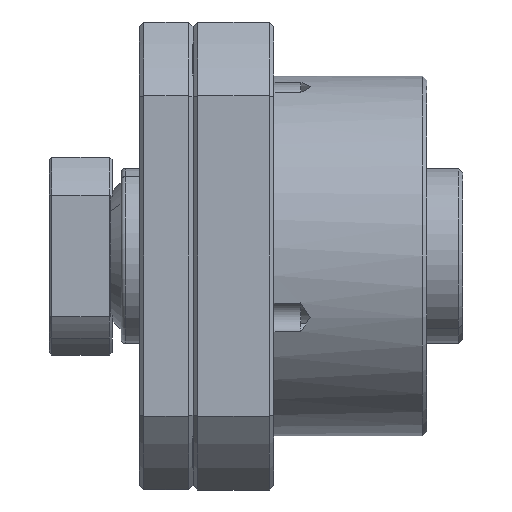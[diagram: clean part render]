
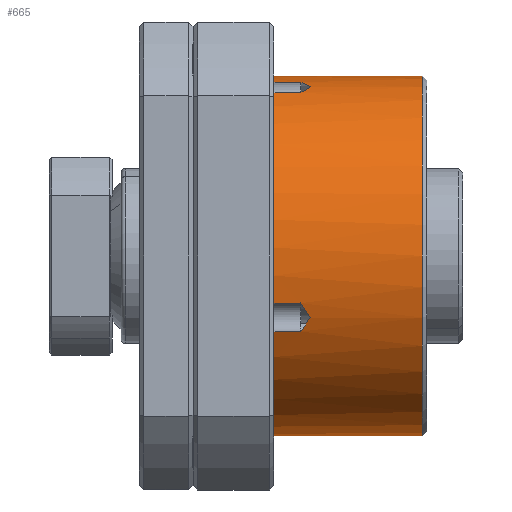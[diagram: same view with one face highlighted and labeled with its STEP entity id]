
A CAD part, front view. The second image highlights one B-rep face of the part: STEP entity #665.
In plain terms, the highlighted cylindrical face has radius 20 mm (diameter 40 mm), a partial arc.
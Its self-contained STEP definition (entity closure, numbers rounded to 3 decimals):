
#18 = VECTOR ( 'NONE', #7051, 1000. ) ;
#54 = VERTEX_POINT ( 'NONE', #859 ) ;
#195 = DIRECTION ( 'NONE',  ( 0., 0., 1. ) ) ;
#244 = CARTESIAN_POINT ( 'NONE',  ( 9., 0., 0. ) ) ;
#260 = CARTESIAN_POINT ( 'NONE',  ( 6., -19.3, -5.244 ) ) ;
#285 = LINE ( 'NONE', #5801, #3372 ) ;
#422 = EDGE_CURVE ( 'NONE', #6852, #6995, #6090, .T. ) ;
#429 = CIRCLE ( 'NONE', #4293, 20. ) ;
#468 = CARTESIAN_POINT ( 'NONE',  ( 12., -8.389, 18.156 ) ) ;
#553 = CARTESIAN_POINT ( 'NONE',  ( 12., -19.3, -5.244 ) ) ;
#665 = ADVANCED_FACE ( 'NONE', ( #6010 ), #3039, .T. ) ;
#678 = CARTESIAN_POINT ( 'NONE',  ( 12., -19.3, -5.244 ) ) ;
#716 = CARTESIAN_POINT ( 'NONE',  ( 12.335, -5.782, 19.154 ) ) ;
#741 = CARTESIAN_POINT ( 'NONE',  ( 13.006, -18.794, -6.84 ) ) ;
#789 = VERTEX_POINT ( 'NONE', #5570 ) ;
#859 = CARTESIAN_POINT ( 'NONE',  ( 25.5, 0., 20. ) ) ;
#946 = VERTEX_POINT ( 'NONE', #2613 ) ;
#986 = B_SPLINE_CURVE_WITH_KNOTS ( 'NONE', 3,
 ( #678, #2297, #2358, #6796 ),
 .UNSPECIFIED., .F., .F.,
 ( 4, 4 ),
 ( 0.002, 0.004 ),
 .UNSPECIFIED. ) ;
#995 = EDGE_CURVE ( 'NONE', #6656, #2235, #285, .T. ) ;
#1009 = CARTESIAN_POINT ( 'NONE',  ( 12.671, -7.365, 18.603 ) ) ;
#1016 = VERTEX_POINT ( 'NONE', #1941 ) ;
#1132 = CARTESIAN_POINT ( 'NONE',  ( 9., 0., 0. ) ) ;
#1391 = VERTEX_POINT ( 'NONE', #553 ) ;
#1520 = CIRCLE ( 'NONE', #3550, 20. ) ;
#1522 = EDGE_CURVE ( 'NONE', #54, #946, #3557, .T. ) ;
#1576 = LINE ( 'NONE', #6209, #3217 ) ;
#1586 = CARTESIAN_POINT ( 'NONE',  ( 9., 0., -20. ) ) ;
#1671 = DIRECTION ( 'NONE',  ( 0., 0., 1. ) ) ;
#1722 = CARTESIAN_POINT ( 'NONE',  ( 25.5, 0., 0. ) ) ;
#1829 = CARTESIAN_POINT ( 'NONE',  ( 13.006, -6.84, 18.794 ) ) ;
#1830 = CARTESIAN_POINT ( 'NONE',  ( 6., -8.389, 18.156 ) ) ;
#1846 = CARTESIAN_POINT ( 'NONE',  ( 12.335, -18.39, -7.882 ) ) ;
#1858 = VERTEX_POINT ( 'NONE', #3412 ) ;
#1941 = CARTESIAN_POINT ( 'NONE',  ( 9., -5.244, 19.3 ) ) ;
#2013 = EDGE_CURVE ( 'NONE', #2727, #5969, #2346, .T. ) ;
#2235 = VERTEX_POINT ( 'NONE', #1586 ) ;
#2259 = DIRECTION ( 'NONE',  ( -1., 0., 0. ) ) ;
#2271 = CARTESIAN_POINT ( 'NONE',  ( 12.335, -7.882, 18.39 ) ) ;
#2280 = DIRECTION ( 'NONE',  ( 0., 0., 1. ) ) ;
#2286 = ORIENTED_EDGE ( 'NONE', *, *, #3926, .T. ) ;
#2297 = CARTESIAN_POINT ( 'NONE',  ( 12.335, -19.154, -5.782 ) ) ;
#2346 = CIRCLE ( 'NONE', #3691, 20. ) ;
#2358 = CARTESIAN_POINT ( 'NONE',  ( 12.671, -18.985, -6.316 ) ) ;
#2426 = EDGE_CURVE ( 'NONE', #1016, #946, #429, .T. ) ;
#2456 = ORIENTED_EDGE ( 'NONE', *, *, #422, .T. ) ;
#2487 = DIRECTION ( 'NONE',  ( -1., 0., 0. ) ) ;
#2613 = CARTESIAN_POINT ( 'NONE',  ( 9., 0., 20. ) ) ;
#2643 = ORIENTED_EDGE ( 'NONE', *, *, #3135, .T. ) ;
#2727 = VERTEX_POINT ( 'NONE', #7186 ) ;
#2917 = CARTESIAN_POINT ( 'NONE',  ( 12., -5.244, 19.3 ) ) ;
#2993 = DIRECTION ( 'NONE',  ( 1., 0., 0. ) ) ;
#3039 = CYLINDRICAL_SURFACE ( 'NONE', #5469, 20. ) ;
#3135 = EDGE_CURVE ( 'NONE', #2727, #1391, #6677, .T. ) ;
#3217 = VECTOR ( 'NONE', #4529, 1000. ) ;
#3256 = CARTESIAN_POINT ( 'NONE',  ( 12., -8.389, 18.156 ) ) ;
#3260 = VECTOR ( 'NONE', #7083, 1000. ) ;
#3320 = CIRCLE ( 'NONE', #6671, 20. ) ;
#3372 = VECTOR ( 'NONE', #6382, 1000. ) ;
#3412 = CARTESIAN_POINT ( 'NONE',  ( 12., -5.244, 19.3 ) ) ;
#3453 = CARTESIAN_POINT ( 'NONE',  ( 6., -18.156, -8.389 ) ) ;
#3550 = AXIS2_PLACEMENT_3D ( 'NONE', #1132, #5009, #1671 ) ;
#3557 = LINE ( 'NONE', #4879, #18 ) ;
#3592 = ORIENTED_EDGE ( 'NONE', *, *, #3697, .T. ) ;
#3598 = EDGE_CURVE ( 'NONE', #6995, #5969, #6147, .T. ) ;
#3691 = AXIS2_PLACEMENT_3D ( 'NONE', #244, #4114, #195 ) ;
#3697 = EDGE_CURVE ( 'NONE', #1391, #789, #986, .T. ) ;
#3830 = LINE ( 'NONE', #3453, #5321 ) ;
#3926 = EDGE_CURVE ( 'NONE', #1858, #6852, #5398, .T. ) ;
#3954 = CARTESIAN_POINT ( 'NONE',  ( 9., -18.156, -8.389 ) ) ;
#4020 = DIRECTION ( 'NONE',  ( -1., 0., 0. ) ) ;
#4028 = ORIENTED_EDGE ( 'NONE', *, *, #7058, .T. ) ;
#4060 = CARTESIAN_POINT ( 'NONE',  ( 12.671, -18.603, -7.365 ) ) ;
#4114 = DIRECTION ( 'NONE',  ( -1., 0., 0. ) ) ;
#4293 = AXIS2_PLACEMENT_3D ( 'NONE', #5923, #2487, #4693 ) ;
#4312 = EDGE_CURVE ( 'NONE', #2235, #6035, #1520, .T. ) ;
#4469 = ORIENTED_EDGE ( 'NONE', *, *, #4312, .F. ) ;
#4529 = DIRECTION ( 'NONE',  ( 1., 0., 0. ) ) ;
#4693 = DIRECTION ( 'NONE',  ( 0., 0., 1. ) ) ;
#4722 = EDGE_CURVE ( 'NONE', #789, #6310, #6988, .T. ) ;
#4879 = CARTESIAN_POINT ( 'NONE',  ( -94.469, 0., 20. ) ) ;
#4979 = CARTESIAN_POINT ( 'NONE',  ( 9., -8.389, 18.156 ) ) ;
#5009 = DIRECTION ( 'NONE',  ( -1., 0., 0. ) ) ;
#5157 = CARTESIAN_POINT ( 'NONE',  ( 12.671, -6.316, 18.985 ) ) ;
#5185 = ORIENTED_EDGE ( 'NONE', *, *, #3598, .T. ) ;
#5285 = VECTOR ( 'NONE', #2993, 1000. ) ;
#5321 = VECTOR ( 'NONE', #4020, 1000. ) ;
#5342 = CARTESIAN_POINT ( 'NONE',  ( 13.006, -6.84, 18.794 ) ) ;
#5347 = ORIENTED_EDGE ( 'NONE', *, *, #2426, .F. ) ;
#5398 = B_SPLINE_CURVE_WITH_KNOTS ( 'NONE', 3,
 ( #2917, #716, #5157, #1829 ),
 .UNSPECIFIED., .F., .F.,
 ( 4, 4 ),
 ( 0.002, 0.004 ),
 .UNSPECIFIED. ) ;
#5469 = AXIS2_PLACEMENT_3D ( 'NONE', #6055, #2259, #7197 ) ;
#5529 = ORIENTED_EDGE ( 'NONE', *, *, #6029, .T. ) ;
#5570 = CARTESIAN_POINT ( 'NONE',  ( 13.006, -18.794, -6.84 ) ) ;
#5606 = DIRECTION ( 'NONE',  ( -1., 0., 0. ) ) ;
#5720 = CARTESIAN_POINT ( 'NONE',  ( 25.5, 0., -20. ) ) ;
#5731 = CARTESIAN_POINT ( 'NONE',  ( 12., -18.156, -8.389 ) ) ;
#5801 = CARTESIAN_POINT ( 'NONE',  ( -94.469, 0., -20. ) ) ;
#5812 = EDGE_LOOP ( 'NONE', ( #6508, #5529, #6254, #5347, #4028, #2286, #2456, #5185, #6751, #2643, #3592, #7142, #6704, #4469 ) ) ;
#5923 = CARTESIAN_POINT ( 'NONE',  ( 9., 0., 0. ) ) ;
#5969 = VERTEX_POINT ( 'NONE', #4979 ) ;
#6010 = FACE_OUTER_BOUND ( 'NONE', #5812, .T. ) ;
#6029 = EDGE_CURVE ( 'NONE', #6656, #54, #3320, .T. ) ;
#6035 = VERTEX_POINT ( 'NONE', #3954 ) ;
#6055 = CARTESIAN_POINT ( 'NONE',  ( -94.469, 0., 0. ) ) ;
#6090 = B_SPLINE_CURVE_WITH_KNOTS ( 'NONE', 3,
 ( #7178, #1009, #2271, #3256 ),
 .UNSPECIFIED., .F., .F.,
 ( 4, 4 ),
 ( 0., 0.002 ),
 .UNSPECIFIED. ) ;
#6147 = LINE ( 'NONE', #1830, #3260 ) ;
#6209 = CARTESIAN_POINT ( 'NONE',  ( 6., -5.244, 19.3 ) ) ;
#6254 = ORIENTED_EDGE ( 'NONE', *, *, #1522, .T. ) ;
#6310 = VERTEX_POINT ( 'NONE', #6989 ) ;
#6382 = DIRECTION ( 'NONE',  ( -1., 0., 0. ) ) ;
#6508 = ORIENTED_EDGE ( 'NONE', *, *, #995, .F. ) ;
#6603 = EDGE_CURVE ( 'NONE', #6310, #6035, #3830, .T. ) ;
#6656 = VERTEX_POINT ( 'NONE', #5720 ) ;
#6671 = AXIS2_PLACEMENT_3D ( 'NONE', #1722, #5606, #2280 ) ;
#6677 = LINE ( 'NONE', #260, #5285 ) ;
#6704 = ORIENTED_EDGE ( 'NONE', *, *, #6603, .T. ) ;
#6751 = ORIENTED_EDGE ( 'NONE', *, *, #2013, .F. ) ;
#6796 = CARTESIAN_POINT ( 'NONE',  ( 13.006, -18.794, -6.84 ) ) ;
#6852 = VERTEX_POINT ( 'NONE', #5342 ) ;
#6988 = B_SPLINE_CURVE_WITH_KNOTS ( 'NONE', 3,
 ( #741, #4060, #1846, #5731 ),
 .UNSPECIFIED., .F., .F.,
 ( 4, 4 ),
 ( 0., 0.002 ),
 .UNSPECIFIED. ) ;
#6989 = CARTESIAN_POINT ( 'NONE',  ( 12., -18.156, -8.389 ) ) ;
#6995 = VERTEX_POINT ( 'NONE', #468 ) ;
#7051 = DIRECTION ( 'NONE',  ( -1., 0., 0. ) ) ;
#7058 = EDGE_CURVE ( 'NONE', #1016, #1858, #1576, .T. ) ;
#7083 = DIRECTION ( 'NONE',  ( -1., 0., 0. ) ) ;
#7142 = ORIENTED_EDGE ( 'NONE', *, *, #4722, .T. ) ;
#7178 = CARTESIAN_POINT ( 'NONE',  ( 13.006, -6.84, 18.794 ) ) ;
#7186 = CARTESIAN_POINT ( 'NONE',  ( 9., -19.3, -5.244 ) ) ;
#7197 = DIRECTION ( 'NONE',  ( 0., 0., 1. ) ) ;
